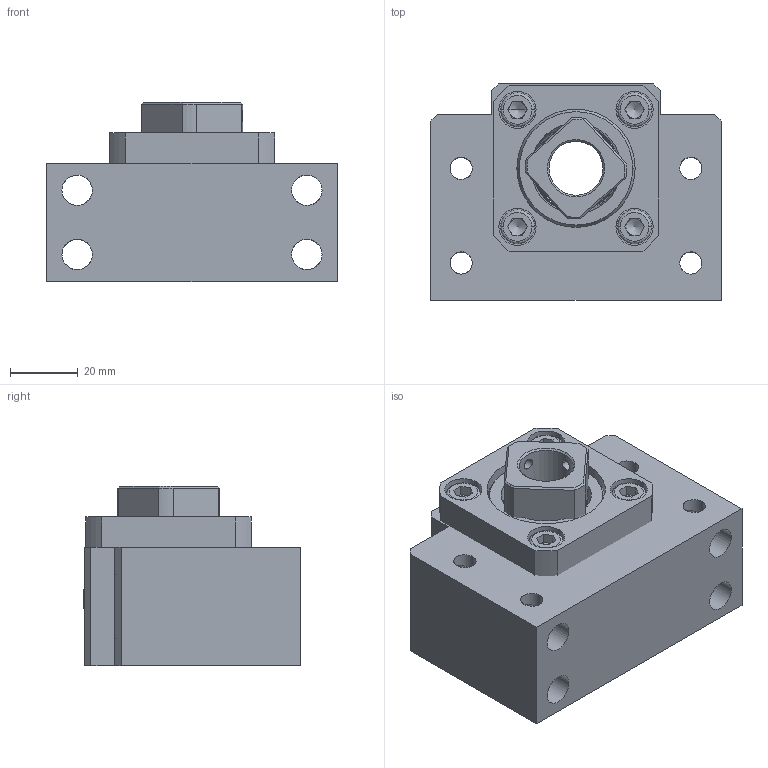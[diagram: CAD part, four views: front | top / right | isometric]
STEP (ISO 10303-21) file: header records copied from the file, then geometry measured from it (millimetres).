
FILE_DESCRIPTION (( 'STEP AP214' ), '1' );
FILE_NAME ('7.4037 BK17.STEP', '2026-03-18T09:05:36', ( '' ), ( '' ), 'SwSTEP 2.0', 'SolidWorks 2025', '' );
FILE_SCHEMA (( 'AUTOMOTIVE_DESIGN' ));
Length unit declared in the file: millimetre
Products named in the file (1): 7.4037 BK17
Bounding box: 86 x 64.1 x 53 mm (x, y, z)
Surface area: 39561.1 mm2 (no closed solid volume)
Topology: 0 solids, 14 shells, 256 faces, 801 edges, 545 vertices
Faces by surface type: plane 108, cylinder 67, cone 39, bspline 36, sphere 6
Entity records: 18095 total; most frequent: CARTESIAN_POINT 9657, ORIENTED_EDGE 1447, DIRECTION 932, EDGE_CURVE 775, VERTEX_POINT 539, B_SPLINE_CURVE_WITH_KNOTS 362, AXIS2_PLACEMENT_3D 323, EDGE_LOOP 319
